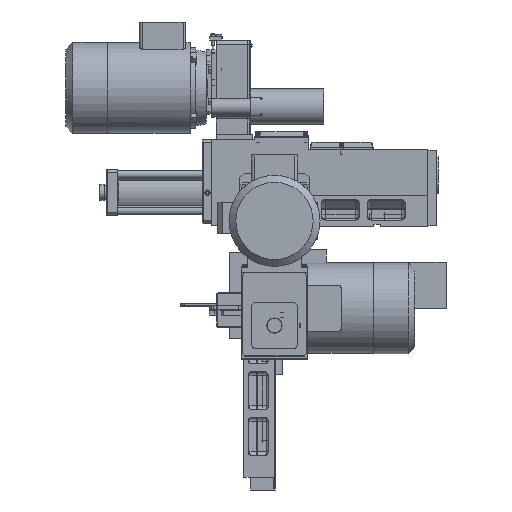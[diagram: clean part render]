
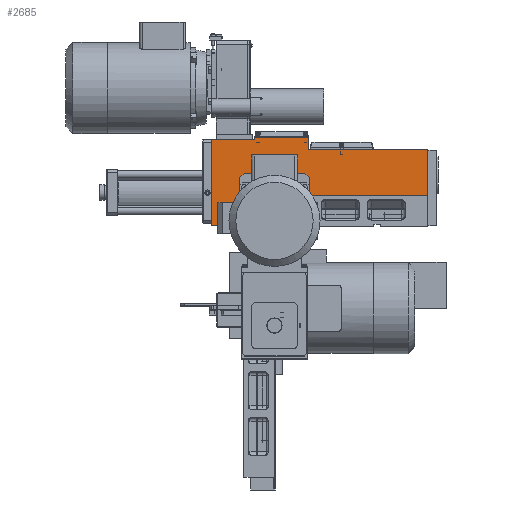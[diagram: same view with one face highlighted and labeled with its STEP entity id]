
A CAD part, front view. The second image highlights one B-rep face of the part: STEP entity #2685.
In plain terms, the highlighted planar face has unit normal (0, -1, 0).
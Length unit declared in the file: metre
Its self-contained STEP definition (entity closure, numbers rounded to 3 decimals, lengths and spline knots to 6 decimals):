
#2685 = ADVANCED_FACE( '', ( #4482 ), #4483, .T. );
#4482 = FACE_OUTER_BOUND( '', #8483, .T. );
#4483 = PLANE( '', #8484 );
#8483 = EDGE_LOOP( '', ( #13904, #13905, #13906, #13907, #13908, #13909, #13910, #13911, #13912, #13913 ) );
#8484 = AXIS2_PLACEMENT_3D( '', #13914, #13915, #13916 );
#13904 = ORIENTED_EDGE( '', *, *, #17388, .T. );
#13905 = ORIENTED_EDGE( '', *, *, #17389, .T. );
#13906 = ORIENTED_EDGE( '', *, *, #17387, .F. );
#13907 = ORIENTED_EDGE( '', *, *, #17381, .T. );
#13908 = ORIENTED_EDGE( '', *, *, #17385, .T. );
#13909 = ORIENTED_EDGE( '', *, *, #17369, .T. );
#13910 = ORIENTED_EDGE( '', *, *, #17390, .T. );
#13911 = ORIENTED_EDGE( '', *, *, #17391, .T. );
#13912 = ORIENTED_EDGE( '', *, *, #17363, .T. );
#13913 = ORIENTED_EDGE( '', *, *, #17353, .T. );
#13914 = CARTESIAN_POINT( '', ( 0.337, -0.003889, 0. ) );
#13915 = DIRECTION( '', ( 0., -1., 0. ) );
#13916 = DIRECTION( '', ( 1., 0., 0. ) );
#17353 = EDGE_CURVE( '', #20188, #20192, #20194, .T. );
#17363 = EDGE_CURVE( '', #20212, #20188, #20213, .T. );
#17369 = EDGE_CURVE( '', #20222, #20220, #20223, .T. );
#17381 = EDGE_CURVE( '', #20242, #20240, #20243, .T. );
#17385 = EDGE_CURVE( '', #20240, #20222, #20247, .T. );
#17387 = EDGE_CURVE( '', #20242, #20248, #20250, .T. );
#17388 = EDGE_CURVE( '', #20192, #20251, #20252, .T. );
#17389 = EDGE_CURVE( '', #20251, #20248, #20253, .T. );
#17390 = EDGE_CURVE( '', #20220, #20254, #20255, .T. );
#17391 = EDGE_CURVE( '', #20254, #20212, #20256, .T. );
#20188 = VERTEX_POINT( '', #25841 );
#20192 = VERTEX_POINT( '', #25847 );
#20194 = LINE( '', #25850, #25851 );
#20212 = VERTEX_POINT( '', #25878 );
#20213 = LINE( '', #25879, #25880 );
#20220 = VERTEX_POINT( '', #25891 );
#20222 = VERTEX_POINT( '', #25894 );
#20223 = LINE( '', #25895, #25896 );
#20240 = VERTEX_POINT( '', #25923 );
#20242 = VERTEX_POINT( '', #25926 );
#20243 = LINE( '', #25927, #25928 );
#20247 = LINE( '', #25935, #25936 );
#20248 = VERTEX_POINT( '', #25937 );
#20250 = LINE( '', #25940, #25941 );
#20251 = VERTEX_POINT( '', #25942 );
#20252 = LINE( '', #25943, #25944 );
#20253 = LINE( '', #25945, #25946 );
#20254 = VERTEX_POINT( '', #25947 );
#20255 = LINE( '', #25948, #25949 );
#20256 = LINE( '', #25950, #25951 );
#25841 = CARTESIAN_POINT( '', ( -0.003, -0.003889, 0.115 ) );
#25847 = CARTESIAN_POINT( '', ( -0.003, -0.003889, 0.11 ) );
#25850 = CARTESIAN_POINT( '', ( -0.003, -0.003889, 0.058735 ) );
#25851 = VECTOR( '', #29315, 1. );
#25878 = CARTESIAN_POINT( '', ( 0.102, -0.003889, 0.115 ) );
#25879 = CARTESIAN_POINT( '', ( -0.005, -0.003889, 0.115 ) );
#25880 = VECTOR( '', #29325, 1. );
#25891 = CARTESIAN_POINT( '', ( 0.337, -0.003889, 0.09 ) );
#25894 = CARTESIAN_POINT( '', ( 0.337, -0.003889, 0. ) );
#25895 = CARTESIAN_POINT( '', ( 0.337, -0.003889, 0. ) );
#25896 = VECTOR( '', #29331, 1. );
#25923 = CARTESIAN_POINT( '', ( -0.005, -0.003889, 0. ) );
#25926 = CARTESIAN_POINT( '', ( -0.005, -0.003889, -0.059 ) );
#25927 = CARTESIAN_POINT( '', ( -0.005, -0.003889, -0.059 ) );
#25928 = VECTOR( '', #29343, 1. );
#25935 = CARTESIAN_POINT( '', ( -0.005, -0.003889, 0. ) );
#25936 = VECTOR( '', #29347, 1. );
#25937 = CARTESIAN_POINT( '', ( -0.088, -0.003889, -0.059 ) );
#25940 = CARTESIAN_POINT( '', ( -0.005, -0.003889, -0.059 ) );
#25941 = VECTOR( '', #29349, 1. );
#25942 = CARTESIAN_POINT( '', ( -0.088, -0.003889, 0.11 ) );
#25943 = CARTESIAN_POINT( '', ( 0.14575, -0.003889, 0.11 ) );
#25944 = VECTOR( '', #29350, 1. );
#25945 = CARTESIAN_POINT( '', ( -0.088, -0.003889, -0.059 ) );
#25946 = VECTOR( '', #29351, 1. );
#25947 = CARTESIAN_POINT( '', ( 0.102, -0.003889, 0.09 ) );
#25948 = CARTESIAN_POINT( '', ( -0.005, -0.003889, 0.09 ) );
#25949 = VECTOR( '', #29352, 1. );
#25950 = CARTESIAN_POINT( '', ( 0.102, -0.003889, 0.09 ) );
#25951 = VECTOR( '', #29353, 1. );
#29315 = DIRECTION( '', ( 0., 0., -1. ) );
#29325 = DIRECTION( '', ( -1., 0., 0. ) );
#29331 = DIRECTION( '', ( 0., 0., 1. ) );
#29343 = DIRECTION( '', ( 0., 0., 1. ) );
#29347 = DIRECTION( '', ( 1., 0., 0. ) );
#29349 = DIRECTION( '', ( -1., 0., 0. ) );
#29350 = DIRECTION( '', ( -1., 0., 0. ) );
#29351 = DIRECTION( '', ( 0., 0., -1. ) );
#29352 = DIRECTION( '', ( -1., 0., 0. ) );
#29353 = DIRECTION( '', ( 0., 0., 1. ) );
